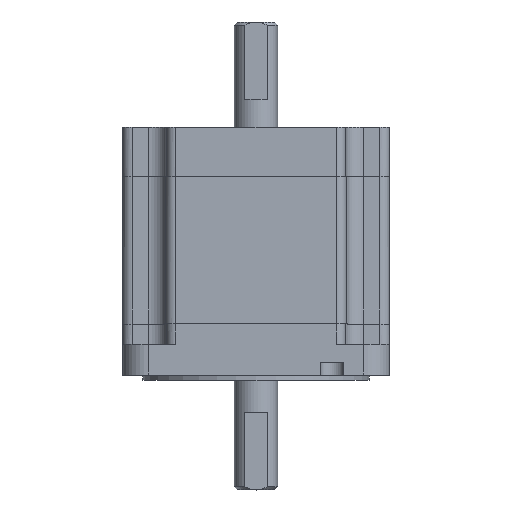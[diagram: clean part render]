
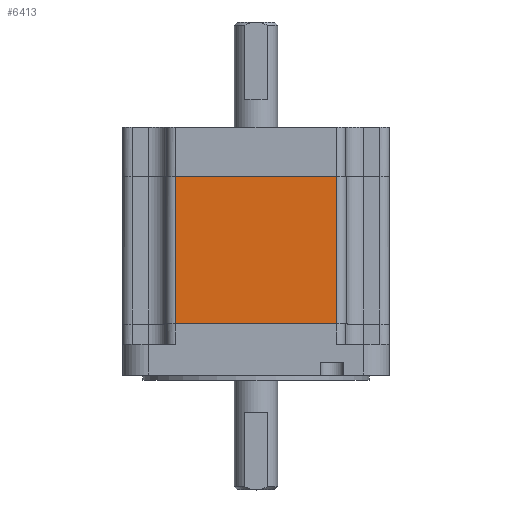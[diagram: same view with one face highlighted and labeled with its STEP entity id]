
A CAD part, top view. The second image highlights one B-rep face of the part: STEP entity #6413.
In plain terms, the highlighted planar face has unit normal (0, 0, 1).
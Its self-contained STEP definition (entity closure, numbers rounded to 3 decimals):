
#2883=CARTESIAN_POINT('',(-26.1,-17.425,42.93));
#2884=VERTEX_POINT('',#2883);
#2892=CARTESIAN_POINT('',(26.1,-17.425,42.93));
#2893=VERTEX_POINT('',#2892);
#2894=CARTESIAN_POINT('',(-26.1,-17.425,42.93));
#2895=DIRECTION('',(1.,0.,0.));
#2896=VECTOR('',#2895,52.2);
#2897=LINE('',#2894,#2896);
#2898=EDGE_CURVE('',#2884,#2893,#2897,.T.);
#6362=CARTESIAN_POINT('',(26.1,-64.925,42.93));
#6363=VERTEX_POINT('',#6362);
#6364=CARTESIAN_POINT('',(26.1,-17.425,42.93));
#6365=DIRECTION('',(0.,-1.,0.));
#6366=VECTOR('',#6365,47.5);
#6367=LINE('',#6364,#6366);
#6368=EDGE_CURVE('',#2893,#6363,#6367,.T.);
#6390=CARTESIAN_POINT('',(0.,-23.175,42.93));
#6391=DIRECTION('',(-1.,0.,0.));
#6392=DIRECTION('',(0.,0.,1.));
#6393=AXIS2_PLACEMENT_3D('',#6390,#6392,#6391);
#6394=PLANE('',#6393);
#6395=ORIENTED_EDGE('',*,*,#2898,.F.);
#6396=CARTESIAN_POINT('',(-26.1,-64.925,42.93));
#6397=VERTEX_POINT('',#6396);
#6398=CARTESIAN_POINT('',(-26.1,-17.425,42.93));
#6399=DIRECTION('',(0.,-1.,0.));
#6400=VECTOR('',#6399,47.5);
#6401=LINE('',#6398,#6400);
#6402=EDGE_CURVE('',#2884,#6397,#6401,.T.);
#6403=ORIENTED_EDGE('E504',*,*,#6402,.T.);
#6404=CARTESIAN_POINT('',(-26.1,-64.925,42.93));
#6405=DIRECTION('',(1.,0.,0.));
#6406=VECTOR('',#6405,52.2);
#6407=LINE('',#6404,#6406);
#6408=EDGE_CURVE('',#6397,#6363,#6407,.T.);
#6409=ORIENTED_EDGE('E505',*,*,#6408,.T.);
#6410=ORIENTED_EDGE('E505',*,*,#6368,.F.);
#6411=EDGE_LOOP('',(#6395,#6403,#6409,#6410));
#6412=FACE_OUTER_BOUND('',#6411,.T.);
#6413=ADVANCED_FACE('F385',(#6412),#6394,.T.);
